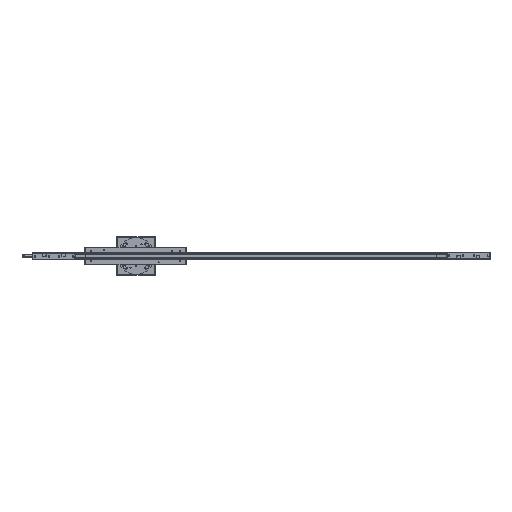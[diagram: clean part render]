
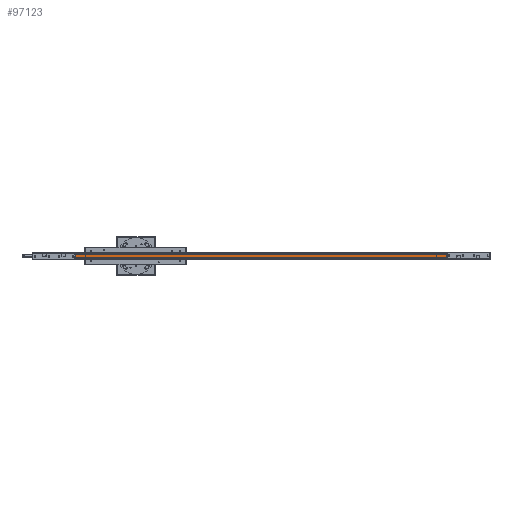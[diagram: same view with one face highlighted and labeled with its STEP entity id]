
A CAD part, front view. The second image highlights one B-rep face of the part: STEP entity #97123.
In plain terms, the highlighted planar face has unit normal (0, -1, 0).
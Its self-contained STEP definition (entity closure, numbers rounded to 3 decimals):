
#1663 = DIRECTION ( 'NONE',  ( 0., 0., 1. ) ) ;
#6047 = CARTESIAN_POINT ( 'NONE',  ( -10., -10., 530. ) ) ;
#10694 = VERTEX_POINT ( 'NONE', #188291 ) ;
#18102 = CARTESIAN_POINT ( 'NONE',  ( -10., -10., -530. ) ) ;
#30439 = PLANE ( 'NONE',  #71909 ) ;
#32171 = DIRECTION ( 'NONE',  ( 0., 0., 1. ) ) ;
#34562 = CARTESIAN_POINT ( 'NONE',  ( -10., -10., -530. ) ) ;
#37993 = EDGE_CURVE ( 'NONE', #132376, #10694, #125909, .T. ) ;
#38169 = DIRECTION ( 'NONE',  ( -1., 0., 0. ) ) ;
#42219 = VECTOR ( 'NONE', #93937, 1000. ) ;
#47108 = ORIENTED_EDGE ( 'NONE', *, *, #145013, .T. ) ;
#63498 = LINE ( 'NONE', #18102, #97945 ) ;
#71909 = AXIS2_PLACEMENT_3D ( 'NONE', #177256, #89552, #1663 ) ;
#72335 = CARTESIAN_POINT ( 'NONE',  ( 10., -10., -530. ) ) ;
#89552 = DIRECTION ( 'NONE',  ( 0., 1., 0. ) ) ;
#90440 = FACE_OUTER_BOUND ( 'NONE', #174441, .T. ) ;
#93937 = DIRECTION ( 'NONE',  ( -1., 0., 0. ) ) ;
#97123 = ADVANCED_FACE ( 'NONE', ( #90440 ), #30439, .F. ) ;
#97945 = VECTOR ( 'NONE', #32171, 1000. ) ;
#114757 = LINE ( 'NONE', #126028, #188094 ) ;
#118958 = EDGE_CURVE ( 'NONE', #132376, #132911, #114757, .T. ) ;
#119976 = ORIENTED_EDGE ( 'NONE', *, *, #118958, .F. ) ;
#125909 = LINE ( 'NONE', #72335, #164891 ) ;
#126028 = CARTESIAN_POINT ( 'NONE',  ( -10., -10., -530. ) ) ;
#132376 = VERTEX_POINT ( 'NONE', #137367 ) ;
#132911 = VERTEX_POINT ( 'NONE', #34562 ) ;
#137367 = CARTESIAN_POINT ( 'NONE',  ( 10., -10., -530. ) ) ;
#145013 = EDGE_CURVE ( 'NONE', #10694, #156524, #159162, .T. ) ;
#149034 = CARTESIAN_POINT ( 'NONE',  ( -10., -10., 530. ) ) ;
#152079 = EDGE_CURVE ( 'NONE', #132911, #156524, #63498, .T. ) ;
#155582 = ORIENTED_EDGE ( 'NONE', *, *, #152079, .F. ) ;
#156524 = VERTEX_POINT ( 'NONE', #149034 ) ;
#159162 = LINE ( 'NONE', #6047, #42219 ) ;
#159349 = ORIENTED_EDGE ( 'NONE', *, *, #37993, .T. ) ;
#160065 = DIRECTION ( 'NONE',  ( 0., 0., 1. ) ) ;
#164891 = VECTOR ( 'NONE', #160065, 1000. ) ;
#174441 = EDGE_LOOP ( 'NONE', ( #47108, #155582, #119976, #159349 ) ) ;
#177256 = CARTESIAN_POINT ( 'NONE',  ( -10., -10., -530. ) ) ;
#188094 = VECTOR ( 'NONE', #38169, 1000. ) ;
#188291 = CARTESIAN_POINT ( 'NONE',  ( 10., -10., 530. ) ) ;
